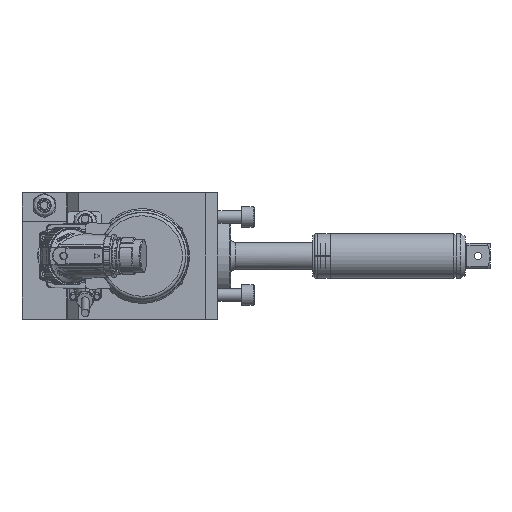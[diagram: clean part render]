
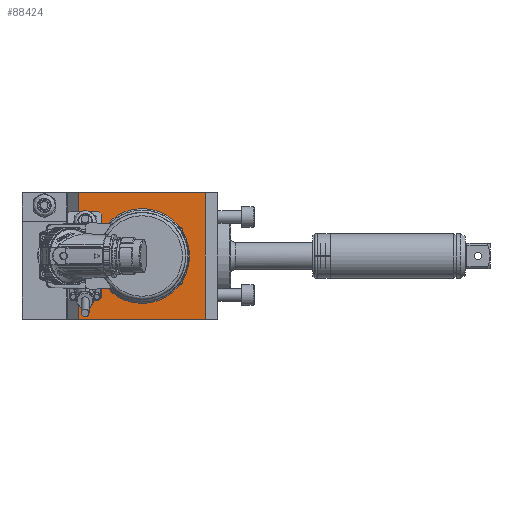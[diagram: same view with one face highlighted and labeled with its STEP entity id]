
A CAD part, left-side view. The second image highlights one B-rep face of the part: STEP entity #88424.
In plain terms, the highlighted planar face has unit normal (-1, 0, 0).
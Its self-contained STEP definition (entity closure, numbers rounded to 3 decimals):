
#4211 = DIRECTION ( 'NONE',  ( 0., 0., 1. ) ) ;
#4756 = CARTESIAN_POINT ( 'NONE',  ( -73.5, 8., -40. ) ) ;
#5507 = ORIENTED_EDGE ( 'NONE', *, *, #6016, .F. ) ;
#5670 = DIRECTION ( 'NONE',  ( 0., -1., 0. ) ) ;
#6016 = EDGE_CURVE ( 'NONE', #24040, #46721, #10225, .T. ) ;
#8437 = ORIENTED_EDGE ( 'NONE', *, *, #71667, .F. ) ;
#10225 = LINE ( 'NONE', #69160, #10531 ) ;
#10450 = CARTESIAN_POINT ( 'NONE',  ( -73.5, 88., -40. ) ) ;
#10531 = VECTOR ( 'NONE', #28419, 1000. ) ;
#10567 = CIRCLE ( 'NONE', #36442, 30. ) ;
#12821 = ORIENTED_EDGE ( 'NONE', *, *, #22962, .F. ) ;
#16965 = VERTEX_POINT ( 'NONE', #25911 ) ;
#20752 = DIRECTION ( 'NONE',  ( 1., 0., 0. ) ) ;
#22962 = EDGE_CURVE ( 'NONE', #46721, #51266, #43190, .T. ) ;
#24040 = VERTEX_POINT ( 'NONE', #10450 ) ;
#25911 = CARTESIAN_POINT ( 'NONE',  ( -73.5, 48., 30. ) ) ;
#28419 = DIRECTION ( 'NONE',  ( 0., 0., 1. ) ) ;
#29598 = DIRECTION ( 'NONE',  ( 0., 0., -1. ) ) ;
#31116 = CARTESIAN_POINT ( 'NONE',  ( -73.5, 88., 40. ) ) ;
#36442 = AXIS2_PLACEMENT_3D ( 'NONE', #71138, #20752, #79570 ) ;
#38101 = CARTESIAN_POINT ( 'NONE',  ( -73.5, 8., 40. ) ) ;
#38158 = VERTEX_POINT ( 'NONE', #4756 ) ;
#42792 = VECTOR ( 'NONE', #5670, 1000. ) ;
#43190 = LINE ( 'NONE', #98256, #42792 ) ;
#46446 = CARTESIAN_POINT ( 'NONE',  ( -73.5, 8., -40. ) ) ;
#46721 = VERTEX_POINT ( 'NONE', #31116 ) ;
#51266 = VERTEX_POINT ( 'NONE', #87848 ) ;
#53266 = LINE ( 'NONE', #38101, #53596 ) ;
#53596 = VECTOR ( 'NONE', #29598, 1000. ) ;
#54759 = DIRECTION ( 'NONE',  ( -1., 0., 0. ) ) ;
#69160 = CARTESIAN_POINT ( 'NONE',  ( -73.5, 88., 40. ) ) ;
#71138 = CARTESIAN_POINT ( 'NONE',  ( -73.5, 48., 0. ) ) ;
#71667 = EDGE_CURVE ( 'NONE', #51266, #38158, #53266, .T. ) ;
#76465 = EDGE_CURVE ( 'NONE', #38158, #24040, #90812, .T. ) ;
#79570 = DIRECTION ( 'NONE',  ( 0., 0., 1. ) ) ;
#79702 = PLANE ( 'NONE',  #79801 ) ;
#79801 = AXIS2_PLACEMENT_3D ( 'NONE', #88185, #54759, #4211 ) ;
#81236 = EDGE_LOOP ( 'NONE', ( #102355 ) ) ;
#87848 = CARTESIAN_POINT ( 'NONE',  ( -73.5, 8., 40. ) ) ;
#88185 = CARTESIAN_POINT ( 'NONE',  ( -73.5, 48., 0. ) ) ;
#88424 = ADVANCED_FACE ( 'NONE', ( #97660, #97460 ), #79702, .T. ) ;
#90704 = VECTOR ( 'NONE', #105460, 1000. ) ;
#90812 = LINE ( 'NONE', #46446, #90704 ) ;
#92983 = EDGE_CURVE ( 'NONE', #16965, #16965, #10567, .T. ) ;
#97460 = FACE_BOUND ( 'NONE', #81236, .T. ) ;
#97660 = FACE_OUTER_BOUND ( 'NONE', #106076, .T. ) ;
#98256 = CARTESIAN_POINT ( 'NONE',  ( -73.5, 8., 40. ) ) ;
#102355 = ORIENTED_EDGE ( 'NONE', *, *, #92983, .T. ) ;
#105460 = DIRECTION ( 'NONE',  ( 0., 1., 0. ) ) ;
#105815 = ORIENTED_EDGE ( 'NONE', *, *, #76465, .F. ) ;
#106076 = EDGE_LOOP ( 'NONE', ( #8437, #12821, #5507, #105815 ) ) ;
